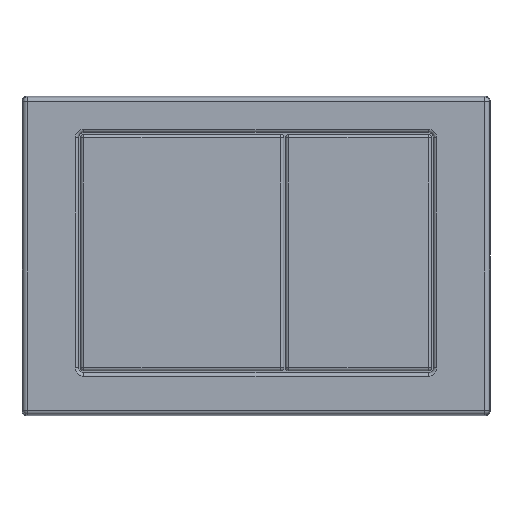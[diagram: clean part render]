
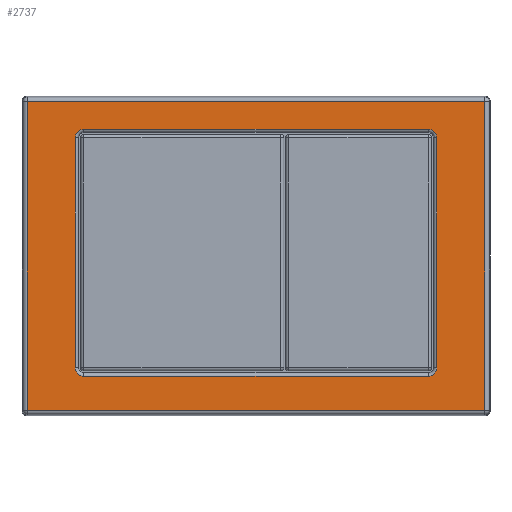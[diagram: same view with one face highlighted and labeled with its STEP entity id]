
A CAD part, top view. The second image highlights one B-rep face of the part: STEP entity #2737.
In plain terms, the highlighted planar face has unit normal (0, 0, 1).
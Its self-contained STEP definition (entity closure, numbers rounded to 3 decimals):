
#47 = EDGE_CURVE ( 'NONE', #110, #2565, #807, .T. ) ;
#108 = ORIENTED_EDGE ( 'NONE', *, *, #2082, .T. ) ;
#110 = VERTEX_POINT ( 'NONE', #1246 ) ;
#130 = FACE_BOUND ( 'NONE', #2434, .T. ) ;
#147 = CARTESIAN_POINT ( 'NONE',  ( 188.3, -59.615, 0. ) ) ;
#168 = EDGE_CURVE ( 'NONE', #2857, #1106, #427, .T. ) ;
#173 = VERTEX_POINT ( 'NONE', #2944 ) ;
#177 = DIRECTION ( 'NONE',  ( -1., 0., 0. ) ) ;
#191 = LINE ( 'NONE', #1768, #2509 ) ;
#275 = ORIENTED_EDGE ( 'NONE', *, *, #1229, .T. ) ;
#287 = CARTESIAN_POINT ( 'NONE',  ( 163.3, -39.5, 0. ) ) ;
#288 = AXIS2_PLACEMENT_3D ( 'NONE', #2655, #856, #2915 ) ;
#329 = CARTESIAN_POINT ( 'NONE',  ( -29.315, 85.615, 0. ) ) ;
#332 = DIRECTION ( 'NONE',  ( 1., 0., 0. ) ) ;
#352 = CIRCLE ( 'NONE', #1182, 4. ) ;
#393 = DIRECTION ( 'NONE',  ( 0., 1., 0. ) ) ;
#427 = LINE ( 'NONE', #1530, #1035 ) ;
#439 = EDGE_CURVE ( 'NONE', #1059, #2857, #2365, .T. ) ;
#445 = AXIS2_PLACEMENT_3D ( 'NONE', #2809, #1201, #332 ) ;
#456 = EDGE_CURVE ( 'NONE', #2041, #2235, #2400, .T. ) ;
#460 = DIRECTION ( 'NONE',  ( 0., -1., 0. ) ) ;
#525 = FACE_OUTER_BOUND ( 'NONE', #1265, .T. ) ;
#533 = EDGE_CURVE ( 'NONE', #2362, #110, #191, .T. ) ;
#572 = DIRECTION ( 'NONE',  ( 0., -1., 0. ) ) ;
#609 = ORIENTED_EDGE ( 'NONE', *, *, #533, .T. ) ;
#614 = CARTESIAN_POINT ( 'NONE',  ( 163.3, -39.5, 0. ) ) ;
#617 = CARTESIAN_POINT ( 'NONE',  ( 159.3, -43.5, 0. ) ) ;
#677 = CARTESIAN_POINT ( 'NONE',  ( 185.915, -59.615, 0. ) ) ;
#690 = DIRECTION ( 'NONE',  ( 1., 0., 0. ) ) ;
#706 = VECTOR ( 'NONE', #460, 1000. ) ;
#733 = LINE ( 'NONE', #287, #706 ) ;
#755 = ORIENTED_EDGE ( 'NONE', *, *, #2778, .T. ) ;
#762 = PLANE ( 'NONE',  #288 ) ;
#771 = ORIENTED_EDGE ( 'NONE', *, *, #439, .T. ) ;
#772 = CARTESIAN_POINT ( 'NONE',  ( -29.315, -59.615, 0. ) ) ;
#807 = CIRCLE ( 'NONE', #1050, 4. ) ;
#810 = DIRECTION ( 'NONE',  ( -1., 0., 0. ) ) ;
#836 = LINE ( 'NONE', #147, #2094 ) ;
#856 = DIRECTION ( 'NONE',  ( 0., 0., -1. ) ) ;
#894 = ORIENTED_EDGE ( 'NONE', *, *, #2231, .T. ) ;
#943 = CARTESIAN_POINT ( 'NONE',  ( 159.3, -39.5, 0. ) ) ;
#957 = VECTOR ( 'NONE', #177, 1000. ) ;
#965 = CARTESIAN_POINT ( 'NONE',  ( -6.7, -39.5, 0. ) ) ;
#1035 = VECTOR ( 'NONE', #810, 1000. ) ;
#1050 = AXIS2_PLACEMENT_3D ( 'NONE', #2028, #1367, #2748 ) ;
#1059 = VERTEX_POINT ( 'NONE', #614 ) ;
#1104 = CARTESIAN_POINT ( 'NONE',  ( 159.3, 72.59, 0. ) ) ;
#1106 = VERTEX_POINT ( 'NONE', #1337 ) ;
#1143 = VECTOR ( 'NONE', #1928, 1000. ) ;
#1182 = AXIS2_PLACEMENT_3D ( 'NONE', #2426, #2712, #2441 ) ;
#1201 = DIRECTION ( 'NONE',  ( 0., 0., -1. ) ) ;
#1229 = EDGE_CURVE ( 'NONE', #1456, #173, #1610, .T. ) ;
#1244 = VECTOR ( 'NONE', #690, 1000. ) ;
#1246 = CARTESIAN_POINT ( 'NONE',  ( -6.7, 68.59, 0. ) ) ;
#1265 = EDGE_LOOP ( 'NONE', ( #755, #2765, #108, #894 ) ) ;
#1309 = CARTESIAN_POINT ( 'NONE',  ( -2.7, 72.59, 0. ) ) ;
#1315 = ORIENTED_EDGE ( 'NONE', *, *, #2355, .T. ) ;
#1337 = CARTESIAN_POINT ( 'NONE',  ( -2.7, -43.5, 0. ) ) ;
#1367 = DIRECTION ( 'NONE',  ( 0., 0., -1. ) ) ;
#1454 = ORIENTED_EDGE ( 'NONE', *, *, #2836, .T. ) ;
#1456 = VERTEX_POINT ( 'NONE', #1104 ) ;
#1530 = CARTESIAN_POINT ( 'NONE',  ( -2.7, -43.5, 0. ) ) ;
#1534 = VERTEX_POINT ( 'NONE', #677 ) ;
#1610 = CIRCLE ( 'NONE', #445, 4. ) ;
#1758 = AXIS2_PLACEMENT_3D ( 'NONE', #943, #1866, #2771 ) ;
#1768 = CARTESIAN_POINT ( 'NONE',  ( -6.7, 68.59, 0. ) ) ;
#1866 = DIRECTION ( 'NONE',  ( 0., 0., -1. ) ) ;
#1928 = DIRECTION ( 'NONE',  ( 0., 1., 0. ) ) ;
#1938 = LINE ( 'NONE', #2835, #1143 ) ;
#1951 = ORIENTED_EDGE ( 'NONE', *, *, #2444, .T. ) ;
#2002 = DIRECTION ( 'NONE',  ( 1., 0., 0. ) ) ;
#2028 = CARTESIAN_POINT ( 'NONE',  ( -2.7, 68.59, 0. ) ) ;
#2041 = VERTEX_POINT ( 'NONE', #329 ) ;
#2082 = EDGE_CURVE ( 'NONE', #2235, #1534, #836, .T. ) ;
#2094 = VECTOR ( 'NONE', #2002, 1000. ) ;
#2148 = CARTESIAN_POINT ( 'NONE',  ( -29.315, 88., 0. ) ) ;
#2227 = CARTESIAN_POINT ( 'NONE',  ( 188.3, 85.615, 0. ) ) ;
#2229 = CARTESIAN_POINT ( 'NONE',  ( 185.915, 85.615, 0. ) ) ;
#2231 = EDGE_CURVE ( 'NONE', #1534, #2563, #1938, .T. ) ;
#2235 = VERTEX_POINT ( 'NONE', #772 ) ;
#2257 = LINE ( 'NONE', #2227, #957 ) ;
#2355 = EDGE_CURVE ( 'NONE', #2565, #1456, #2760, .T. ) ;
#2362 = VERTEX_POINT ( 'NONE', #965 ) ;
#2365 = CIRCLE ( 'NONE', #1758, 4. ) ;
#2395 = ORIENTED_EDGE ( 'NONE', *, *, #168, .T. ) ;
#2400 = LINE ( 'NONE', #2148, #2511 ) ;
#2426 = CARTESIAN_POINT ( 'NONE',  ( -2.7, -39.5, 0. ) ) ;
#2434 = EDGE_LOOP ( 'NONE', ( #609, #2736, #1315, #275, #1951, #771, #2395, #1454 ) ) ;
#2441 = DIRECTION ( 'NONE',  ( 1., 0., 0. ) ) ;
#2444 = EDGE_CURVE ( 'NONE', #173, #1059, #733, .T. ) ;
#2509 = VECTOR ( 'NONE', #393, 1000. ) ;
#2511 = VECTOR ( 'NONE', #572, 1000. ) ;
#2563 = VERTEX_POINT ( 'NONE', #2229 ) ;
#2565 = VERTEX_POINT ( 'NONE', #1309 ) ;
#2655 = CARTESIAN_POINT ( 'NONE',  ( 188.3, 88., 0. ) ) ;
#2712 = DIRECTION ( 'NONE',  ( 0., 0., -1. ) ) ;
#2736 = ORIENTED_EDGE ( 'NONE', *, *, #47, .T. ) ;
#2737 = ADVANCED_FACE ( 'NONE', ( #130, #525 ), #762, .F. ) ;
#2746 = CARTESIAN_POINT ( 'NONE',  ( 159.3, 72.59, 0. ) ) ;
#2748 = DIRECTION ( 'NONE',  ( 1., 0., 0. ) ) ;
#2760 = LINE ( 'NONE', #2746, #1244 ) ;
#2765 = ORIENTED_EDGE ( 'NONE', *, *, #456, .T. ) ;
#2771 = DIRECTION ( 'NONE',  ( 1., 0., 0. ) ) ;
#2778 = EDGE_CURVE ( 'NONE', #2563, #2041, #2257, .T. ) ;
#2809 = CARTESIAN_POINT ( 'NONE',  ( 159.3, 68.59, 0. ) ) ;
#2835 = CARTESIAN_POINT ( 'NONE',  ( 185.915, 88., 0. ) ) ;
#2836 = EDGE_CURVE ( 'NONE', #1106, #2362, #352, .T. ) ;
#2857 = VERTEX_POINT ( 'NONE', #617 ) ;
#2915 = DIRECTION ( 'NONE',  ( 1., 0., 0. ) ) ;
#2944 = CARTESIAN_POINT ( 'NONE',  ( 163.3, 68.59, 0. ) ) ;
